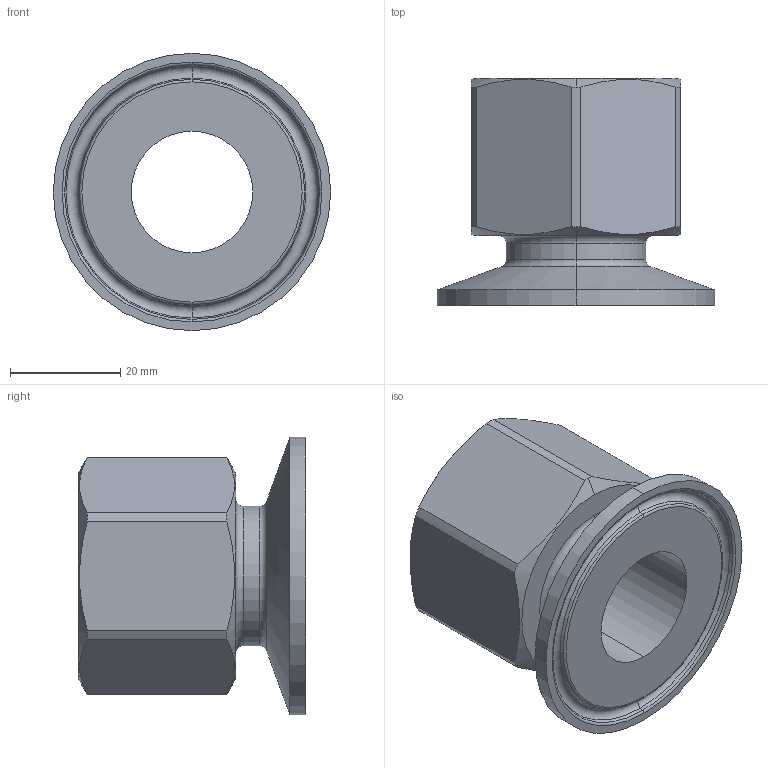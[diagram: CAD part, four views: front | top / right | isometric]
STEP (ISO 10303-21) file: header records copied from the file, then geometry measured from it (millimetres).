
FILE_DESCRIPTION (( 'STEP AP214' ), '1' );
FILE_NAME ('TEG226L1.0.STEP', '2025-10-23T11:32:21', ( '' ), ( '' ), 'SwSTEP 2.0', 'SolidWorks 2023', '' );
FILE_SCHEMA (( 'AUTOMOTIVE_DESIGN' ));
Length unit declared in the file: inch
Products named in the file (1): TEG226L1.0
Bounding box: 50.39 x 41.3 x 50.39 mm (x, y, z)
Volume: 26413.3 mm3; surface area: 13058.4 mm2
Topology: 1 solids, 1 shells, 59 faces, 131 edges, 78 vertices
Faces by surface type: cylinder 17, cone 16, torus 14, plane 12
Entity records: 1780 total; most frequent: CARTESIAN_POINT 401, DIRECTION 319, ORIENTED_EDGE 262, AXIS2_PLACEMENT_3D 140, EDGE_CURVE 131, CIRCLE 80, VERTEX_POINT 78, EDGE_LOOP 65
